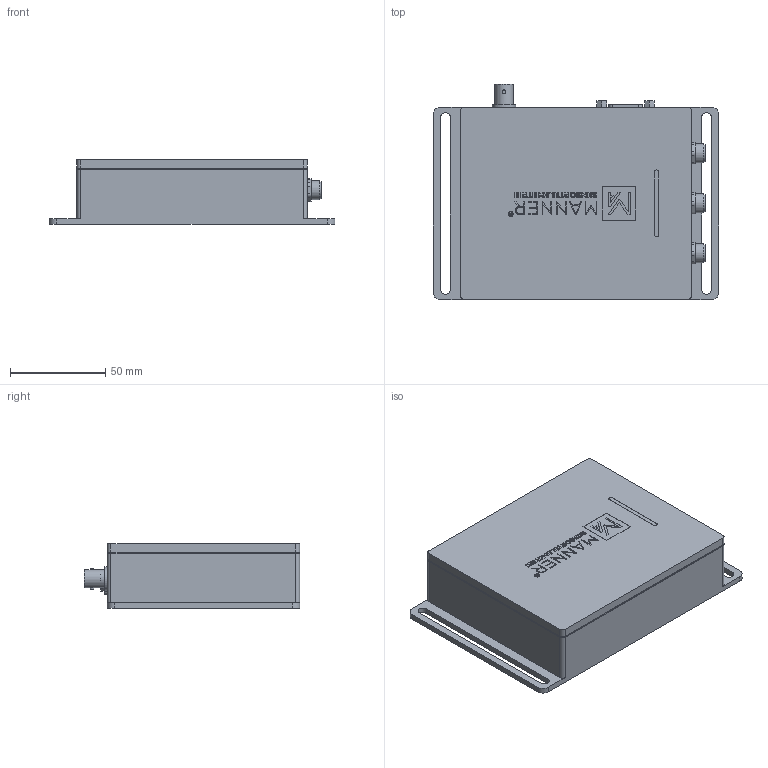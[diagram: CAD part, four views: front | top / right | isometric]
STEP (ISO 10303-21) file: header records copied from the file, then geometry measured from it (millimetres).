
FILE_DESCRIPTION(/* description */ (''),/* implementation_level */ '2;1');
FILE_NAME(/* name */ 'G:\Bibliotheken\CAD_Daten_MERP\500083\500083_ZSB_AW_Pn_AS_3xM8_Vertrieb_2025-10-28.stp',/* time_stamp */ '2025-10-28T11:05:46+01:00',/* author */ ('JSch'),/* organization */ (''),/* preprocessor_version */ 'ST-DEVELOPER v18.1',/* originating_system */ 'Autodesk Inventor 2021',/* authorisation */ '');
FILE_SCHEMA (('AUTOMOTIVE_DESIGN { 1 0 10303 214 3 1 1 }'));
Length unit declared in the file: millimetre
Products named in the file (1): 500083_ZSB_AW_Pn_AS_3xM8_Vertrieb
Bounding box: 150 x 113 x 34 mm (x, y, z)
Volume: 422308.5 mm3; surface area: 53342.7 mm2
Topology: 26 solids, 30 shells, 1023 faces, 2442 edges, 1539 vertices
Faces by surface type: plane 664, cylinder 249, sphere 52, bspline 49, cone 9
Full cylindrical faces by diameter (mm): 0.3 x12, 0.61 x9, 1 x12, 1.9 x3, 1.95 x3, 2 x2, 2.156 x2, 2.4 x1, 2.459 x4, 2.845 x2, 3 x2, 3.2 x2, 4.5 x1, 5.65 x3, 7.5 x3, 8.3 x1, 8.9 x3, 9.5 x1, 10 x3, 12.5 x1
Entity records: 30152 total; most frequent: CARTESIAN_POINT 5598, ORIENTED_EDGE 4768, DIRECTION 4731, EDGE_CURVE 2384, LINE 1779, VECTOR 1779, VERTEX_POINT 1539, AXIS2_PLACEMENT_3D 1476
